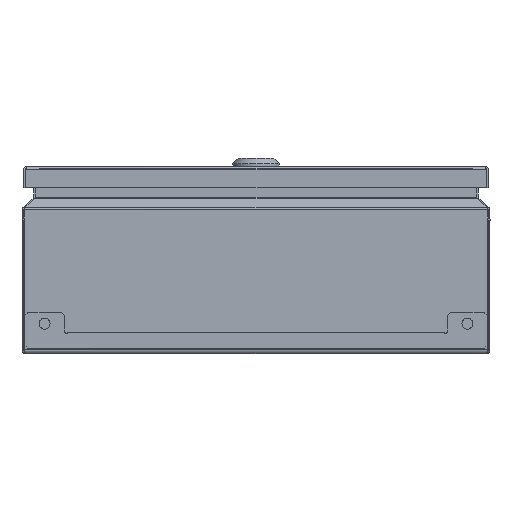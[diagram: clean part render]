
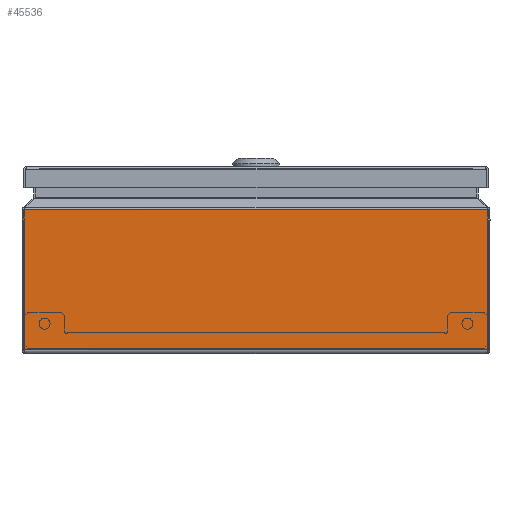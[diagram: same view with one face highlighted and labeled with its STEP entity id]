
A CAD part, left-side view. The second image highlights one B-rep face of the part: STEP entity #45536.
In plain terms, the highlighted planar face has unit normal (-1, 0, 0).
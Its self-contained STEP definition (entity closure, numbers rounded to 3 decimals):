
#1103 = CARTESIAN_POINT ( 'NONE',  ( -150., -148.6, 92.119 ) ) ;
#3646 = EDGE_CURVE ( 'NONE', #23729, #27553, #59663, .T. ) ;
#10456 = EDGE_CURVE ( 'NONE', #31039, #73790, #51948, .T. ) ;
#17878 = LINE ( 'NONE', #61167, #64465 ) ;
#20317 = EDGE_CURVE ( 'NONE', #31039, #23729, #91873, .T. ) ;
#23729 = VERTEX_POINT ( 'NONE', #68284 ) ;
#26268 = DIRECTION ( 'NONE',  ( 1., 0., 0. ) ) ;
#27553 = VERTEX_POINT ( 'NONE', #77165 ) ;
#27656 = DIRECTION ( 'NONE',  ( 0., 0., -1. ) ) ;
#28683 = EDGE_LOOP ( 'NONE', ( #36413, #92302, #53109, #70801 ) ) ;
#28819 = CARTESIAN_POINT ( 'NONE',  ( -150., -1650., 92.119 ) ) ;
#30068 = VECTOR ( 'NONE', #92338, 1000. ) ;
#31039 = VERTEX_POINT ( 'NONE', #1103 ) ;
#32690 = VECTOR ( 'NONE', #56756, 1000. ) ;
#36413 = ORIENTED_EDGE ( 'NONE', *, *, #3646, .T. ) ;
#41174 = PLANE ( 'NONE',  #60989 ) ;
#45536 = ADVANCED_FACE ( 'NONE', ( #47721 ), #41174, .F. ) ;
#47721 = FACE_OUTER_BOUND ( 'NONE', #28683, .T. ) ;
#51948 = LINE ( 'NONE', #78211, #30068 ) ;
#53109 = ORIENTED_EDGE ( 'NONE', *, *, #10456, .F. ) ;
#55372 = VECTOR ( 'NONE', #88149, 1000. ) ;
#56756 = DIRECTION ( 'NONE',  ( 0., 1., 0. ) ) ;
#59663 = LINE ( 'NONE', #89100, #55372 ) ;
#60989 = AXIS2_PLACEMENT_3D ( 'NONE', #90667, #26268, #27656 ) ;
#61167 = CARTESIAN_POINT ( 'NONE',  ( -150., -1650., 2.4 ) ) ;
#64465 = VECTOR ( 'NONE', #87852, 1000. ) ;
#68284 = CARTESIAN_POINT ( 'NONE',  ( -150., 148.6, 92.119 ) ) ;
#70801 = ORIENTED_EDGE ( 'NONE', *, *, #20317, .T. ) ;
#72867 = EDGE_CURVE ( 'NONE', #73790, #27553, #17878, .T. ) ;
#73790 = VERTEX_POINT ( 'NONE', #75301 ) ;
#75301 = CARTESIAN_POINT ( 'NONE',  ( -150., -148.6, 2.4 ) ) ;
#77165 = CARTESIAN_POINT ( 'NONE',  ( -150., 148.6, 2.4 ) ) ;
#78211 = CARTESIAN_POINT ( 'NONE',  ( -150., -148.6, 92.119 ) ) ;
#87852 = DIRECTION ( 'NONE',  ( 0., 1., 0. ) ) ;
#88149 = DIRECTION ( 'NONE',  ( 0., 0., -1. ) ) ;
#89100 = CARTESIAN_POINT ( 'NONE',  ( -150., 148.6, 92.119 ) ) ;
#90667 = CARTESIAN_POINT ( 'NONE',  ( -150., -1650., 92.119 ) ) ;
#91873 = LINE ( 'NONE', #28819, #32690 ) ;
#92302 = ORIENTED_EDGE ( 'NONE', *, *, #72867, .F. ) ;
#92338 = DIRECTION ( 'NONE',  ( 0., 0., -1. ) ) ;
